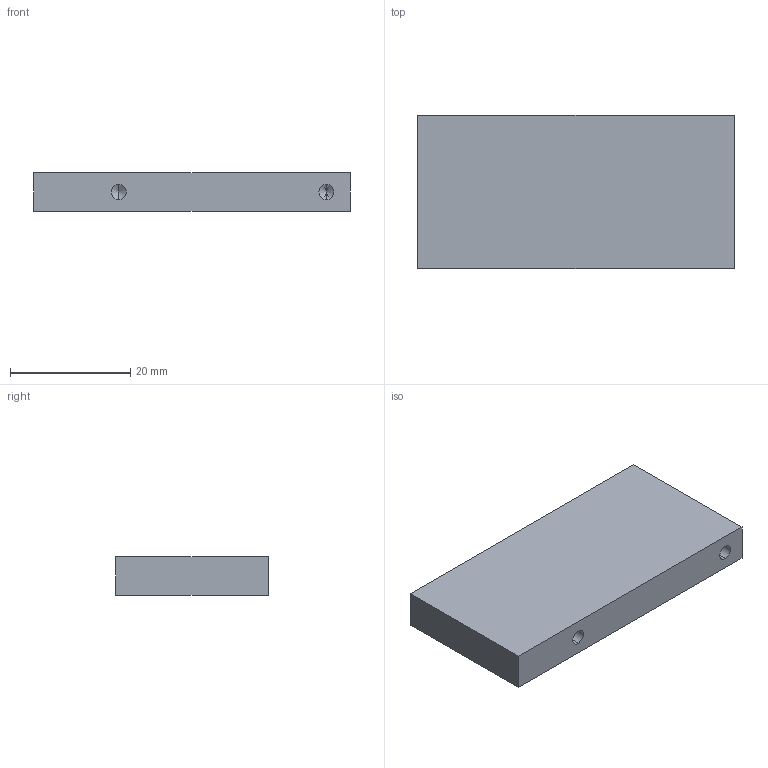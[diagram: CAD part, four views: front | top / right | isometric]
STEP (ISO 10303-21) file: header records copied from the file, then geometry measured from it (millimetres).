
FILE_DESCRIPTION (( 'STEP AP214' ), '1' );
FILE_NAME ('2514164.STEP', '2018-05-15T13:28:55', ( '' ), ( '' ), 'SwSTEP 2.0', 'SolidWorks 2016', '' );
FILE_SCHEMA (( 'AUTOMOTIVE_DESIGN' ));
Length unit declared in the file: inch
Products named in the file (1): 2514164
Bounding box: 52.58 x 25.4 x 6.35 mm (x, y, z)
Volume: 8351.4 mm3; surface area: 3881.9 mm2
Topology: 1 solids, 1 shells, 22 faces, 52 edges, 28 vertices
Faces by surface type: cylinder 8, cone 8, plane 6
Entity records: 612 total; most frequent: DIRECTION 106, CARTESIAN_POINT 95, ORIENTED_EDGE 88, EDGE_CURVE 44, AXIS2_PLACEMENT_3D 39, LINE 28, VERTEX_POINT 28, VECTOR 28
